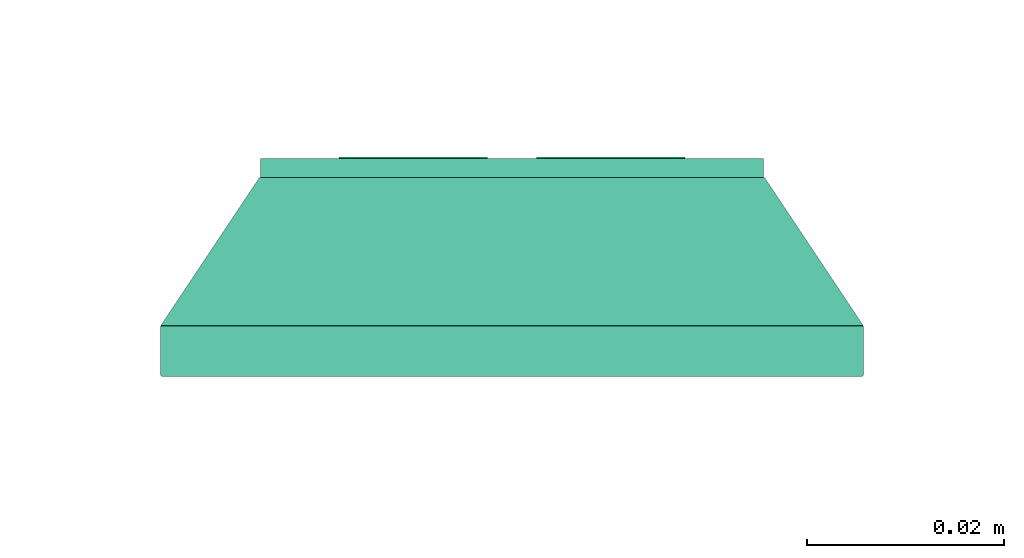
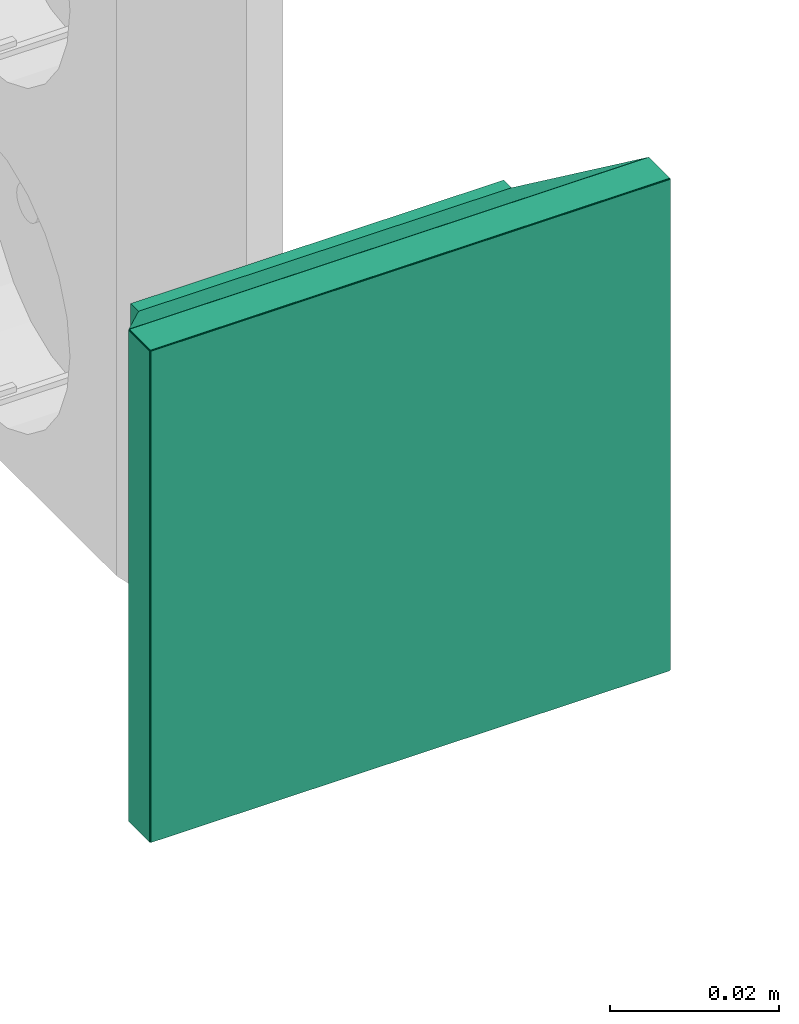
# One storey, part 2 of 24: 1 flow terminal.
"""IFC2X3 building model written with IfcOpenShell, lengths in millimetres."""

from ifc_helpers import new_model, entity, si_unit, converted_unit, derived_unit, direction, frame, origin_with_axes, place, context, subcontext, project, spatial, open_shell, surface_model, source, transform, mapped, type_object, element, save


model = new_model("IFC2X3")

# Units and contexts
model_context = context("Model", 3, precision=0.01, world=frame((0.0, 4.29681676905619e-09, 0.0)), true_north=direction((4.01073788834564e-13, 1.0)))
plan_context = context("Plan", 3, precision=0.01, world=frame((0.0, 4.29681676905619e-09, 0.0)), true_north=direction((4.01073788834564e-13, 1.0)))
body_context = subcontext(model_context, "Body", "Model", "MODEL_VIEW")
ifc_project = project(units=[converted_unit("PLANEANGLEUNIT", "DEGREE", entity("IfcPositiveLengthMeasure", 0.0174532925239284), si_unit("PLANEANGLEUNIT", "RADIAN"), dimensions=[0, 0, 0, 0, 0, 0, 0]), si_unit("AREAUNIT", "SQUARE_METRE"), si_unit("LENGTHUNIT", "METRE", prefix="MILLI"), si_unit("MASSUNIT", "GRAM", prefix="KILO"), si_unit("POWERUNIT", "WATT"), si_unit("PRESSUREUNIT", "PASCAL"), si_unit("FORCEUNIT", "NEWTON", prefix="KILO"), si_unit("ELECTRICVOLTAGEUNIT", "VOLT"), si_unit("ELECTRICCURRENTUNIT", "AMPERE"), si_unit("THERMODYNAMICTEMPERATUREUNIT", "DEGREE_CELSIUS"), si_unit("TIMEUNIT", "SECOND"), si_unit("VOLUMEUNIT", "CUBIC_METRE"), derived_unit("LINEARVELOCITYUNIT", [(si_unit("LENGTHUNIT", "METRE"), 1), (si_unit("TIMEUNIT", "SECOND"), -1)]), derived_unit("VOLUMETRICFLOWRATEUNIT", [(si_unit("VOLUMEUNIT", "CUBIC_METRE"), 1), (si_unit("TIMEUNIT", "SECOND"), -1)]), derived_unit("THERMALTRANSMITTANCEUNIT", [(si_unit("POWERUNIT", "WATT"), 1), (si_unit("THERMODYNAMICTEMPERATUREUNIT", "KELVIN"), -1), (si_unit("AREAUNIT", "SQUARE_METRE"), -1)]), derived_unit("SOUNDPRESSUREUNIT", [(si_unit("PRESSUREUNIT", "PASCAL"), 1)])], contexts=[model_context, plan_context])

# Site, building, storey
site_placement = place(None, frame((0.0, -4.29681676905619e-09, 0.0), z_axis=(0.0, 0.0, 1.0), x_axis=(1.0, 0.0, 0.0)))
site = spatial("IfcSite", under=ifc_project, at=site_placement, Name="ENGM", CompositionType="ELEMENT")
building_placement = place(site_placement, frame((0.0, 4.29681676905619e-09, 0.0), z_axis=(0.0, 0.0, 1.0), x_axis=(1.0, 0.0, 0.0)))
building = spatial("IfcBuilding", under=site, at=building_placement, Name="TH", CompositionType="ELEMENT")
storey_placement = place(building_placement, frame((0.0, 0.0, 210200.0), z_axis=(0.0, 0.0, 1.0), x_axis=(1.0, 0.0, 0.0)))
storey = spatial("IfcBuildingStorey", under=building, at=storey_placement, Name="Nivå F - 0,7 m", CompositionType="ELEMENT", Elevation=210200.0)

# Flow terminal
outlet_type = type_object("IfcOutletType", Name="Datauttak dobbel Vegg - IKT", PredefinedType="COMMUNICATIONSOUTLET")
shared_shape = source(origin_with_axes(), body_context, "Body", "SurfaceModel", [
    surface_model("IfcShellBasedSurfaceModel", [(35.5, 5.05547, 35.5832), (25.5, 20.05547, 25.5832), (-35.5, 5.05547, 35.5832), (-25.5, 20.05547, 25.5832), (-35.5, 4.94453, 35.41679), (-25.5, 19.94453, 25.41679), (25.5, 19.94453, 25.41679), (35.5, 4.94453, 35.41679), (35.5, 4.94453, -35.41679), (25.5, 19.94453, -25.41679), (-35.5, 4.94453, -35.41679), (-25.5, 19.94453, -25.41679), (-35.5, 5.05547, -35.5832), (-25.5, 20.05547, -25.5832), (25.5, 20.05547, -25.5832), (35.5, 5.05547, -35.5832), (-25.5832, 20.05547, -25.5), (-35.5832, 5.05547, -35.5), (-35.5832, 5.05547, 35.5), (-25.5832, 20.05547, 25.5), (-25.41679, 19.94453, 25.5), (-35.41679, 4.94453, 35.5), (-25.41679, 19.94453, -25.5), (-35.41679, 4.94453, -35.5), (25.41679, 19.94453, -25.5), (35.41679, 4.94453, -35.5), (35.41679, 4.94453, 35.5), (25.41679, 19.94453, 25.5), (25.5832, 20.05547, 25.5), (35.5832, 5.05547, 35.5), (25.5832, 20.05547, -25.5), (35.5832, 5.05547, -35.5), (35.4, 5.0, -35.5), (35.4, 0.0, -35.5), (35.4, 0.0, 35.5), (35.4, 5.0, 35.5), (35.6, 5.0, 35.5), (35.6, 0.0, 35.5), (35.6, 0.0, -35.5), (35.6, 5.0, -35.5), (-35.5, 0.0, -35.6), (-35.5, 5.0, -35.6), (35.5, 5.0, -35.6), (35.5, 0.0, -35.6), (35.5, 0.0, -35.4), (35.5, 5.0, -35.4), (-35.5, 5.0, -35.4), (-35.5, 0.0, -35.4), (-35.6, 5.0, -35.5), (-35.6, 0.0, -35.5), (-35.6, 0.0, 35.5), (-35.6, 5.0, 35.5), (-35.4, 5.0, 35.5), (-35.4, 0.0, 35.5), (-35.4, 0.0, -35.5), (-35.4, 5.0, -35.5), (-35.5, -0.1, -35.5), (35.5, -0.1, -35.5), (35.5, -0.1, 35.5), (-35.5, -0.1, 35.5), (-35.5, 0.1, 35.5), (35.5, 0.1, 35.5), (35.5, 0.1, -35.5), (-35.5, 0.1, -35.5), (-35.5, 0.0, 35.4), (-35.5, 5.0, 35.4), (35.5, 5.0, 35.4), (35.5, 0.0, 35.4), (35.5, 0.0, 35.6), (35.5, 5.0, 35.6), (-35.5, 5.0, 35.6), (-35.5, 0.0, 35.6), (-25.5, 19.9, -25.5), (25.5, 19.9, -25.5), (25.5, 19.9, 25.5), (-25.5, 19.9, 25.5), (-25.5, 20.1, 25.5), (25.5, 20.1, 25.5), (25.5, 20.1, -25.5), (-25.5, 20.1, -25.5), (-17.5, 21.91, -6.5), (-2.5, 21.91, -6.5), (-17.5, 21.91, 8.5), (-2.5, 21.91, 8.5), (-17.5, 22.11, 8.5), (-2.5, 22.11, 8.5), (-17.5, 22.11, -6.5), (-2.5, 22.11, -6.5), (2.5, 21.91, -6.5), (17.5, 21.91, -6.5), (17.5, 21.91, 8.5), (2.5, 21.91, 8.5), (2.5, 22.11, 8.5), (17.5, 22.11, 8.5), (2.5, 22.11, -6.5), (17.5, 22.11, -6.5), (-25.5, 22.0, 25.5), (-25.5, 20.0, 25.5), (25.5, 20.0, 25.5), (25.5, 22.0, 25.5), (25.5, 22.0, 20.5), (25.5, 20.0, 20.5), (-25.5, 20.0, 20.5), (-25.5, 22.0, 20.5), (-25.5, 22.0, 10.5), (-25.5, 20.0, 10.5), (25.5, 20.0, 10.5), (25.5, 22.0, 10.5), (25.5, 22.0, -25.5), (25.5, 20.0, -25.5), (-25.5, 20.0, -25.5), (-25.5, 22.0, -25.5)], [open_shell([[[0, 1, 2]], [[3, 2, 1]], [[4, 5, 6]], [[6, 7, 4]], [[3, 1, 6]], [[6, 5, 3]], [[2, 3, 4]], [[5, 4, 3]], [[0, 2, 7]], [[4, 7, 2]], [[1, 0, 6]], [[7, 6, 0]], [[8, 9, 10]], [[11, 10, 9]], [[12, 13, 14]], [[14, 15, 12]], [[11, 9, 14]], [[14, 13, 11]], [[10, 11, 12]], [[13, 12, 11]], [[8, 10, 12]], [[12, 15, 8]], [[9, 8, 14]], [[15, 14, 8]], [[16, 17, 18]], [[18, 19, 16]], [[20, 21, 22]], [[23, 22, 21]], [[18, 17, 23]], [[23, 21, 18]], [[19, 18, 20]], [[21, 20, 18]], [[16, 19, 20]], [[20, 22, 16]], [[17, 16, 22]], [[22, 23, 17]], [[24, 25, 26]], [[26, 27, 24]], [[28, 29, 30]], [[31, 30, 29]], [[26, 25, 31]], [[31, 29, 26]], [[27, 26, 28]], [[29, 28, 26]], [[24, 27, 28]], [[28, 30, 24]], [[25, 24, 30]], [[30, 31, 25]], [[32, 33, 34]], [[34, 35, 32]], [[36, 37, 38]], [[38, 39, 36]], [[34, 33, 38]], [[38, 37, 34]], [[35, 34, 37]], [[37, 36, 35]], [[32, 35, 36]], [[36, 39, 32]], [[33, 32, 39]], [[39, 38, 33]], [[40, 41, 42]], [[42, 43, 40]], [[44, 45, 46]], [[46, 47, 44]], [[42, 41, 46]], [[46, 45, 42]], [[43, 42, 45]], [[45, 44, 43]], [[40, 43, 44]], [[44, 47, 40]], [[41, 40, 47]], [[47, 46, 41]], [[48, 49, 50]], [[50, 51, 48]], [[52, 53, 54]], [[54, 55, 52]], [[50, 49, 54]], [[54, 53, 50]], [[51, 50, 53]], [[53, 52, 51]], [[48, 51, 52]], [[52, 55, 48]], [[49, 48, 55]], [[55, 54, 49]], [[56, 57, 58]], [[58, 59, 56]], [[60, 61, 62]], [[62, 63, 60]], [[58, 57, 62]], [[62, 61, 58]], [[59, 58, 61]], [[61, 60, 59]], [[56, 59, 60]], [[60, 63, 56]], [[57, 56, 63]], [[63, 62, 57]], [[64, 65, 66]], [[66, 67, 64]], [[68, 69, 70]], [[70, 71, 68]], [[66, 65, 70]], [[70, 69, 66]], [[67, 66, 69]], [[69, 68, 67]], [[64, 67, 68]], [[68, 71, 64]], [[65, 64, 71]], [[71, 70, 65]], [[72, 73, 74]], [[74, 75, 72]], [[76, 77, 78]], [[78, 79, 76]], [[74, 73, 78]], [[78, 77, 74]], [[75, 74, 77]], [[77, 76, 75]], [[72, 75, 76]], [[76, 79, 72]], [[73, 72, 79]], [[79, 78, 73]], [[80, 81, 82]], [[83, 82, 81]], [[84, 85, 86]], [[87, 86, 85]], [[83, 81, 87]], [[87, 85, 83]], [[82, 83, 85]], [[85, 84, 82]], [[80, 82, 84]], [[84, 86, 80]], [[81, 80, 86]], [[86, 87, 81]], [[88, 89, 90]], [[90, 91, 88]], [[92, 93, 94]], [[95, 94, 93]], [[90, 89, 95]], [[95, 93, 90]], [[91, 90, 93]], [[93, 92, 91]], [[88, 91, 92]], [[92, 94, 88]], [[89, 88, 94]], [[94, 95, 89]], [[96, 97, 98]], [[98, 99, 96]], [[100, 101, 102]], [[102, 103, 100]], [[98, 97, 102]], [[102, 101, 98]], [[99, 98, 101]], [[101, 100, 99]], [[96, 99, 100]], [[100, 103, 96]], [[97, 96, 103]], [[103, 102, 97]], [[104, 105, 106]], [[106, 107, 104]], [[108, 109, 110]], [[110, 111, 108]], [[106, 105, 110]], [[110, 109, 106]], [[107, 106, 109]], [[109, 108, 107]], [[104, 107, 108]], [[108, 111, 104]], [[105, 104, 111]], [[111, 110, 105]]])]),
])
flow_terminal_placement = place(storey_placement, frame((895205.79953, 478468.75, 2000.0), z_axis=(0.0, 0.0, 1.0), x_axis=(1.0, 0.0, 0.0)))
element("IfcFlowTerminal", 1, at=flow_terminal_placement, inside=storey, type_object=outlet_type, Name="Datauttak dobbel Vegg - IKT", context=body_context, shape_type="MappedRepresentation", body=[
    mapped(shared_shape, transform((0.0, 0.0, 0.0), scale=1.0)),
])

save(model, "model.ifc")
